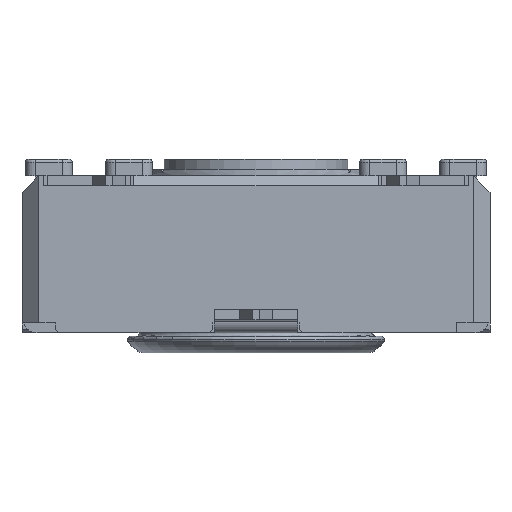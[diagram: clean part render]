
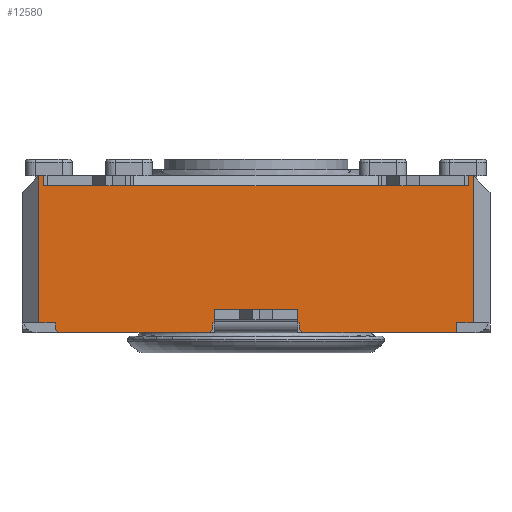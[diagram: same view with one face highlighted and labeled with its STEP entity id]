
A CAD part, front view. The second image highlights one B-rep face of the part: STEP entity #12580.
In plain terms, the highlighted planar face has unit normal (0, -1, 0).
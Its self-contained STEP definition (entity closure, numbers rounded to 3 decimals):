
#655=FACE_OUTER_BOUND('',#1325,.T.);
#1325=EDGE_LOOP('',(#8369,#8370,#8371,#8372,#8373,#8374,#8375,#8376,#8377,
#8378,#8379,#8380,#8381,#8382,#8383,#8384,#8385,#8386,#8387,#8388,#8389,
#8390,#8391,#8392,#8393,#8394,#8395));
#2014=LINE('',#17905,#3503);
#2023=LINE('',#17931,#3512);
#2028=LINE('',#17941,#3517);
#2108=LINE('',#18106,#3597);
#2133=LINE('',#18157,#3622);
#2159=LINE('',#18221,#3648);
#2160=LINE('',#18223,#3649);
#2161=LINE('',#18225,#3650);
#2162=LINE('',#18226,#3651);
#2163=LINE('',#18228,#3652);
#2164=LINE('',#18230,#3653);
#2165=LINE('',#18232,#3654);
#2166=LINE('',#18234,#3655);
#2167=LINE('',#18235,#3656);
#2168=LINE('',#18237,#3657);
#2169=LINE('',#18239,#3658);
#2170=LINE('',#18241,#3659);
#2171=LINE('',#18243,#3660);
#2172=LINE('',#18245,#3661);
#2173=LINE('',#18247,#3662);
#2174=LINE('',#18249,#3663);
#2175=LINE('',#18251,#3664);
#2176=LINE('',#18253,#3665);
#2177=LINE('',#18254,#3666);
#2178=LINE('',#18256,#3667);
#2179=LINE('',#18258,#3668);
#2180=LINE('',#18259,#3669);
#3503=VECTOR('',#14366,10.);
#3512=VECTOR('',#14397,10.);
#3517=VECTOR('',#14402,10.);
#3597=VECTOR('',#14510,10.);
#3622=VECTOR('',#14551,10.);
#3648=VECTOR('',#14599,10.);
#3649=VECTOR('',#14600,10.);
#3650=VECTOR('',#14601,10.);
#3651=VECTOR('',#14602,10.);
#3652=VECTOR('',#14603,10.);
#3653=VECTOR('',#14604,10.);
#3654=VECTOR('',#14605,10.);
#3655=VECTOR('',#14606,10.);
#3656=VECTOR('',#14607,10.);
#3657=VECTOR('',#14608,10.);
#3658=VECTOR('',#14609,10.);
#3659=VECTOR('',#14610,10.);
#3660=VECTOR('',#14611,10.);
#3661=VECTOR('',#14612,10.);
#3662=VECTOR('',#14613,10.);
#3663=VECTOR('',#14614,10.);
#3664=VECTOR('',#14615,10.);
#3665=VECTOR('',#14616,10.);
#3666=VECTOR('',#14617,10.);
#3667=VECTOR('',#14618,10.);
#3668=VECTOR('',#14619,10.);
#3669=VECTOR('',#14620,10.);
#4980=VERTEX_POINT('',#17885);
#4987=VERTEX_POINT('',#17904);
#4993=VERTEX_POINT('',#17930);
#4997=VERTEX_POINT('',#17938);
#4998=VERTEX_POINT('',#17940);
#5051=VERTEX_POINT('',#18054);
#5069=VERTEX_POINT('',#18105);
#5086=VERTEX_POINT('',#18154);
#5087=VERTEX_POINT('',#18156);
#5114=VERTEX_POINT('',#18220);
#5115=VERTEX_POINT('',#18222);
#5116=VERTEX_POINT('',#18224);
#5117=VERTEX_POINT('',#18227);
#5118=VERTEX_POINT('',#18229);
#5119=VERTEX_POINT('',#18231);
#5120=VERTEX_POINT('',#18233);
#5121=VERTEX_POINT('',#18236);
#5122=VERTEX_POINT('',#18238);
#5123=VERTEX_POINT('',#18240);
#5124=VERTEX_POINT('',#18242);
#5125=VERTEX_POINT('',#18244);
#5126=VERTEX_POINT('',#18246);
#5127=VERTEX_POINT('',#18248);
#5128=VERTEX_POINT('',#18250);
#5129=VERTEX_POINT('',#18252);
#5130=VERTEX_POINT('',#18255);
#5131=VERTEX_POINT('',#18257);
#6223=EDGE_CURVE('',#4980,#4987,#2014,.T.);
#6236=EDGE_CURVE('',#4993,#4980,#2023,.T.);
#6241=EDGE_CURVE('',#4998,#4997,#2028,.T.);
#6323=EDGE_CURVE('',#5069,#5051,#2108,.T.);
#6348=EDGE_CURVE('',#5087,#5086,#2133,.T.);
#6380=EDGE_CURVE('',#5051,#5114,#2159,.T.);
#6381=EDGE_CURVE('',#5114,#5115,#2160,.T.);
#6382=EDGE_CURVE('',#5115,#5116,#2161,.T.);
#6383=EDGE_CURVE('',#4998,#5116,#2162,.T.);
#6384=EDGE_CURVE('',#4997,#5117,#2163,.T.);
#6385=EDGE_CURVE('',#5118,#5117,#2164,.T.);
#6386=EDGE_CURVE('',#5118,#5119,#2165,.T.);
#6387=EDGE_CURVE('',#5120,#5119,#2166,.T.);
#6388=EDGE_CURVE('',#4993,#5120,#2167,.T.);
#6389=EDGE_CURVE('',#4987,#5121,#2168,.T.);
#6390=EDGE_CURVE('',#5121,#5122,#2169,.T.);
#6391=EDGE_CURVE('',#5123,#5122,#2170,.T.);
#6392=EDGE_CURVE('',#5123,#5124,#2171,.T.);
#6393=EDGE_CURVE('',#5124,#5125,#2172,.T.);
#6394=EDGE_CURVE('',#5125,#5126,#2173,.T.);
#6395=EDGE_CURVE('',#5127,#5126,#2174,.T.);
#6396=EDGE_CURVE('',#5127,#5128,#2175,.T.);
#6397=EDGE_CURVE('',#5128,#5129,#2176,.T.);
#6398=EDGE_CURVE('',#5129,#5087,#2177,.T.);
#6399=EDGE_CURVE('',#5086,#5130,#2178,.T.);
#6400=EDGE_CURVE('',#5131,#5130,#2179,.T.);
#6401=EDGE_CURVE('',#5131,#5069,#2180,.T.);
#8369=ORIENTED_EDGE('',*,*,#6323,.T.);
#8370=ORIENTED_EDGE('',*,*,#6380,.T.);
#8371=ORIENTED_EDGE('',*,*,#6381,.T.);
#8372=ORIENTED_EDGE('',*,*,#6382,.T.);
#8373=ORIENTED_EDGE('',*,*,#6383,.F.);
#8374=ORIENTED_EDGE('',*,*,#6241,.T.);
#8375=ORIENTED_EDGE('',*,*,#6384,.T.);
#8376=ORIENTED_EDGE('',*,*,#6385,.F.);
#8377=ORIENTED_EDGE('',*,*,#6386,.T.);
#8378=ORIENTED_EDGE('',*,*,#6387,.F.);
#8379=ORIENTED_EDGE('',*,*,#6388,.F.);
#8380=ORIENTED_EDGE('',*,*,#6236,.T.);
#8381=ORIENTED_EDGE('',*,*,#6223,.T.);
#8382=ORIENTED_EDGE('',*,*,#6389,.T.);
#8383=ORIENTED_EDGE('',*,*,#6390,.T.);
#8384=ORIENTED_EDGE('',*,*,#6391,.F.);
#8385=ORIENTED_EDGE('',*,*,#6392,.T.);
#8386=ORIENTED_EDGE('',*,*,#6393,.T.);
#8387=ORIENTED_EDGE('',*,*,#6394,.T.);
#8388=ORIENTED_EDGE('',*,*,#6395,.F.);
#8389=ORIENTED_EDGE('',*,*,#6396,.T.);
#8390=ORIENTED_EDGE('',*,*,#6397,.T.);
#8391=ORIENTED_EDGE('',*,*,#6398,.T.);
#8392=ORIENTED_EDGE('',*,*,#6348,.T.);
#8393=ORIENTED_EDGE('',*,*,#6399,.T.);
#8394=ORIENTED_EDGE('',*,*,#6400,.F.);
#8395=ORIENTED_EDGE('',*,*,#6401,.T.);
#11863=PLANE('',#13296);
#12580=ADVANCED_FACE('',(#655),#11863,.T.);
#13296=AXIS2_PLACEMENT_3D('',#18219,#14597,#14598);
#14366=DIRECTION('',(1.,0.,0.));
#14397=DIRECTION('',(1.,0.,0.));
#14402=DIRECTION('',(1.,0.,0.));
#14510=DIRECTION('',(-1.,0.,0.));
#14551=DIRECTION('',(-1.,0.,0.));
#14597=DIRECTION('center_axis',(0.,-1.,0.));
#14598=DIRECTION('ref_axis',(0.,0.,-1.));
#14599=DIRECTION('',(-1.,0.,0.));
#14600=DIRECTION('',(0.,0.,1.));
#14601=DIRECTION('',(-1.,0.,0.));
#14602=DIRECTION('',(0.,0.,1.));
#14603=DIRECTION('',(0.,0.,-1.));
#14604=DIRECTION('',(-0.707,0.,0.707));
#14605=DIRECTION('',(1.,0.,0.));
#14606=DIRECTION('',(-0.707,0.,-0.707));
#14607=DIRECTION('',(0.,0.,-1.));
#14608=DIRECTION('',(1.,0.,0.));
#14609=DIRECTION('',(0.,0.,-1.));
#14610=DIRECTION('',(-0.707,0.,0.707));
#14611=DIRECTION('',(1.,0.,0.));
#14612=DIRECTION('',(0.,0.,1.));
#14613=DIRECTION('',(1.,0.,0.));
#14614=DIRECTION('',(0.,0.,-1.));
#14615=DIRECTION('',(-1.,0.,0.));
#14616=DIRECTION('',(0.,0.,-1.));
#14617=DIRECTION('',(-1.,0.,0.));
#14618=DIRECTION('',(-1.,0.,0.));
#14619=DIRECTION('',(1.,0.,0.));
#14620=DIRECTION('',(-1.,0.,0.));
#17885=CARTESIAN_POINT('',(-8.717,-9.898,0.));
#17904=CARTESIAN_POINT('',(-6.217,-9.898,0.));
#17905=CARTESIAN_POINT('',(-14.467,-9.898,0.));
#17930=CARTESIAN_POINT('',(-8.767,-9.898,0.));
#17931=CARTESIAN_POINT('',(-14.467,-9.898,0.));
#17938=CARTESIAN_POINT('',(-13.467,-9.898,0.));
#17940=CARTESIAN_POINT('',(-13.967,-9.898,0.));
#17941=CARTESIAN_POINT('',(-7.245,-9.898,0.));
#18054=CARTESIAN_POINT('',(-13.717,-9.898,4.1));
#18105=CARTESIAN_POINT('',(-11.217,-9.898,4.1));
#18106=CARTESIAN_POINT('',(-6.341,-9.898,4.1));
#18154=CARTESIAN_POINT('',(-3.717,-9.898,4.1));
#18156=CARTESIAN_POINT('',(-1.217,-9.898,4.1));
#18157=CARTESIAN_POINT('',(-1.593,-9.898,4.1));
#18219=CARTESIAN_POINT('Origin',(-0.467,-9.898,0.));
#18220=CARTESIAN_POINT('',(-13.817,-9.898,4.1));
#18221=CARTESIAN_POINT('',(-3.944,-9.898,4.1));
#18222=CARTESIAN_POINT('',(-13.817,-9.898,4.4));
#18223=CARTESIAN_POINT('',(-13.817,-9.898,2.2));
#18224=CARTESIAN_POINT('',(-13.967,-9.898,4.4));
#18225=CARTESIAN_POINT('',(-14.467,-9.898,4.4));
#18226=CARTESIAN_POINT('',(-13.967,-9.898,0.));
#18227=CARTESIAN_POINT('',(-13.467,-9.898,-0.2));
#18228=CARTESIAN_POINT('',(-13.467,-9.898,-0.15));
#18229=CARTESIAN_POINT('',(-13.367,-9.898,-0.3));
#18230=CARTESIAN_POINT('',(-10.242,-9.898,-3.425));
#18231=CARTESIAN_POINT('',(-8.867,-9.898,-0.3));
#18232=CARTESIAN_POINT('',(-0.467,-9.898,-0.3));
#18233=CARTESIAN_POINT('',(-8.767,-9.898,-0.2));
#18234=CARTESIAN_POINT('',(-6.667,-9.898,1.9));
#18235=CARTESIAN_POINT('',(-8.767,-9.898,0.));
#18236=CARTESIAN_POINT('',(-6.167,-9.898,0.));
#18237=CARTESIAN_POINT('',(-14.467,-9.898,0.));
#18238=CARTESIAN_POINT('',(-6.167,-9.898,-0.2));
#18239=CARTESIAN_POINT('',(-6.167,-9.898,0.));
#18240=CARTESIAN_POINT('',(-6.067,-9.898,-0.3));
#18241=CARTESIAN_POINT('',(-4.767,-9.898,-1.6));
#18242=CARTESIAN_POINT('',(-1.467,-9.898,-0.3));
#18243=CARTESIAN_POINT('',(-0.467,-9.898,-0.3));
#18244=CARTESIAN_POINT('',(-1.467,-9.898,0.));
#18245=CARTESIAN_POINT('',(-1.467,-9.898,-0.15));
#18246=CARTESIAN_POINT('',(-0.967,-9.898,0.));
#18247=CARTESIAN_POINT('',(-0.646,-9.898,0.));
#18248=CARTESIAN_POINT('',(-0.967,-9.898,4.4));
#18249=CARTESIAN_POINT('',(-0.967,-9.898,0.));
#18250=CARTESIAN_POINT('',(-1.117,-9.898,4.4));
#18251=CARTESIAN_POINT('',(-14.467,-9.898,4.4));
#18252=CARTESIAN_POINT('',(-1.117,-9.898,4.1));
#18253=CARTESIAN_POINT('',(-1.117,-9.898,2.2));
#18254=CARTESIAN_POINT('',(-1.862,-9.898,4.1));
#18255=CARTESIAN_POINT('',(-3.817,-9.898,4.1));
#18256=CARTESIAN_POINT('',(-1.862,-9.898,4.1));
#18257=CARTESIAN_POINT('',(-11.117,-9.898,4.1));
#18258=CARTESIAN_POINT('',(-3.967,-9.898,4.1));
#18259=CARTESIAN_POINT('',(-3.944,-9.898,4.1));
